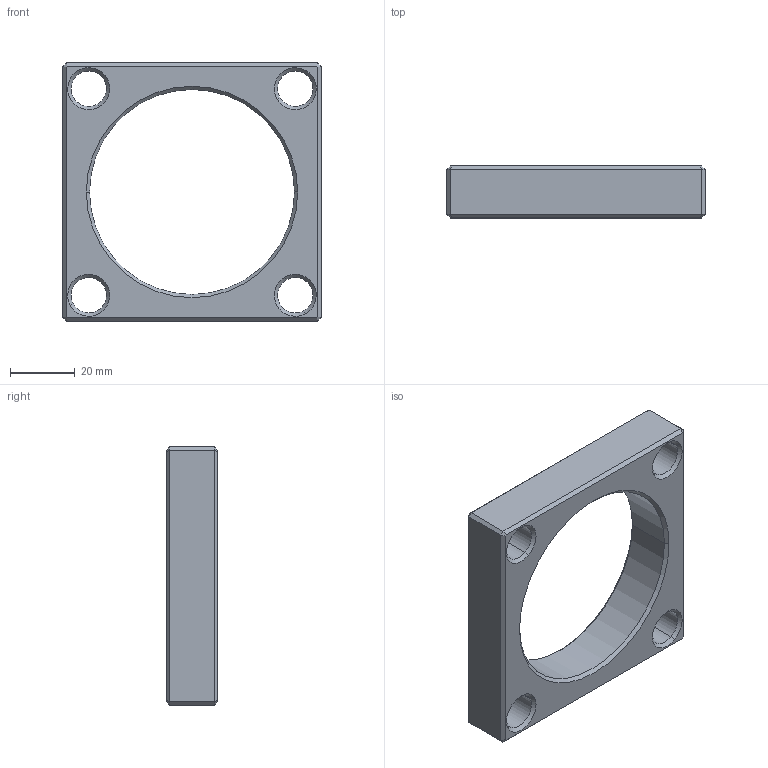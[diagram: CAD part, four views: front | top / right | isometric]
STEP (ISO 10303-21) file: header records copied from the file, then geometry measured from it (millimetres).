
FILE_DESCRIPTION(('CATIA V5 STEP Exchange'),'2;1');
FILE_NAME('W:\CATALOGO GENERAL 2018\FICHEROS CAD\023-BRIDAS\02-FSC\FSC 63-1.stp','2017-11-28T15:28:21+00:00',('none'),('none'),'CATIA Version 5 Release 17 (IN-10)','CATIA V5 STEP AP203','none');
FILE_SCHEMA(('CONFIG_CONTROL_DESIGN'));
Length unit declared in the file: millimetre
Products named in the file (1): FSC 63-1
Bounding box: 80 x 16 x 80 mm (x, y, z)
Volume: 44951.5 mm3; surface area: 15430.4 mm2
Topology: 1 solids, 1 shells, 56 faces, 126 edges, 72 vertices
Faces by surface type: plane 26, cone 20, cylinder 10
Entity records: 1528 total; most frequent: CARTESIAN_POINT 271, ORIENTED_EDGE 252, DIRECTION 222, EDGE_CURVE 126, AXIS2_PLACEMENT_3D 97, VERTEX_POINT 72, VECTOR 70, LINE 70
